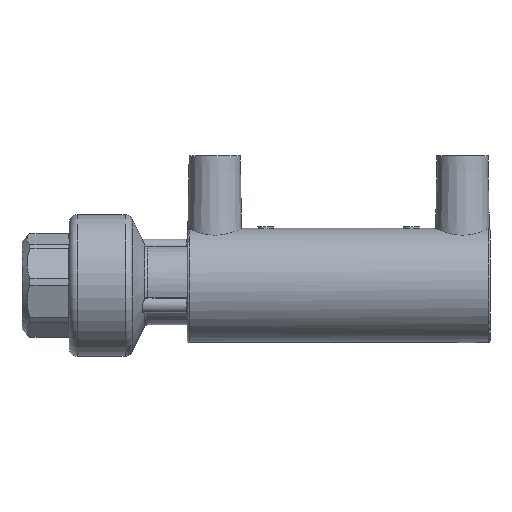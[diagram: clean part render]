
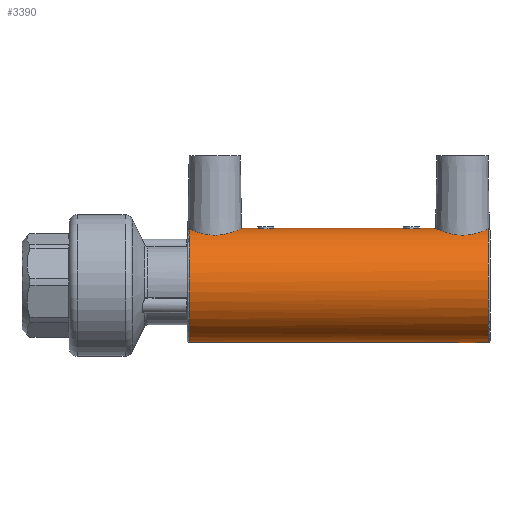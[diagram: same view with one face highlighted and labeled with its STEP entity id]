
A CAD part, front view. The second image highlights one B-rep face of the part: STEP entity #3390.
In plain terms, the highlighted cylindrical face has radius 14.5 mm (diameter 29 mm), a full revolution.
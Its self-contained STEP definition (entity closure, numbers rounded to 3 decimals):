
#606=CIRCLE('',#4387,14.5);
#607=CIRCLE('',#4388,14.5);
#860=ORIENTED_EDGE('',*,*,#1848,.F.);
#861=ORIENTED_EDGE('',*,*,#1849,.F.);
#862=ORIENTED_EDGE('',*,*,#1850,.T.);
#863=ORIENTED_EDGE('',*,*,#1851,.T.);
#864=ORIENTED_EDGE('',*,*,#1852,.T.);
#865=ORIENTED_EDGE('',*,*,#1853,.T.);
#1848=EDGE_CURVE('',#2342,#2342,#2674,.T.);
#1849=EDGE_CURVE('',#2343,#2343,#2675,.T.);
#1850=EDGE_CURVE('',#2344,#2345,#606,.F.);
#1851=EDGE_CURVE('',#2345,#2344,#2676,.T.);
#1852=EDGE_CURVE('',#2346,#2347,#607,.F.);
#1853=EDGE_CURVE('',#2347,#2346,#2677,.T.);
#2342=VERTEX_POINT('',#6028);
#2343=VERTEX_POINT('',#6040);
#2344=VERTEX_POINT('',#6042);
#2345=VERTEX_POINT('',#6043);
#2346=VERTEX_POINT('',#6064);
#2347=VERTEX_POINT('',#6065);
#2674=B_SPLINE_CURVE_WITH_KNOTS('',3,(#6017,#6018,#6019,#6020,#6021,#6022,
#6023,#6024,#6025,#6026,#6027),.UNSPECIFIED.,.T.,.F.,(1,1,1,1,1,1,1,1,1,
1,1,1,1,1,1),(-0.005,-0.003,-0.002,
0.,0.002,0.003,0.005,
0.006,0.008,0.009,0.011,
0.013,0.014,0.016,0.017),
 .UNSPECIFIED.);
#2675=B_SPLINE_CURVE_WITH_KNOTS('',3,(#6029,#6030,#6031,#6032,#6033,#6034,
#6035,#6036,#6037,#6038,#6039),.UNSPECIFIED.,.T.,.F.,(1,1,1,1,1,1,1,1,1,
1,1,1,1,1,1),(-0.005,-0.003,-0.002,
0.,0.002,0.003,0.005,
0.006,0.008,0.009,0.011,
0.013,0.014,0.016,0.017),
 .UNSPECIFIED.);
#2676=B_SPLINE_CURVE_WITH_KNOTS('',3,(#6044,#6045,#6046,#6047,#6048,#6049,
#6050,#6051,#6052,#6053,#6054,#6055,#6056,#6057,#6058,#6059,#6060,#6061,
#6062),.UNSPECIFIED.,.F.,.F.,(4,1,1,1,1,1,1,1,1,1,1,1,1,1,1,1,4),(0.,
0.002,0.005,0.007,0.01,
0.012,0.015,0.017,0.02,
0.022,0.024,0.027,0.029,
0.032,0.034,0.037,0.039),
 .UNSPECIFIED.);
#2677=B_SPLINE_CURVE_WITH_KNOTS('',3,(#6066,#6067,#6068,#6069,#6070,#6071,
#6072,#6073,#6074,#6075,#6076,#6077,#6078,#6079,#6080,#6081,#6082,#6083,
#6084),.UNSPECIFIED.,.F.,.F.,(4,1,1,1,1,1,1,1,1,1,1,1,1,1,1,1,4),(0.,
0.002,0.005,0.007,0.01,
0.012,0.015,0.017,0.02,
0.022,0.024,0.027,0.029,
0.032,0.034,0.037,0.039),
 .UNSPECIFIED.);
#2718=EDGE_LOOP('',(#860));
#2719=EDGE_LOOP('',(#861));
#2720=EDGE_LOOP('',(#862,#863));
#2721=EDGE_LOOP('',(#864,#865));
#3024=FACE_BOUND('',#2718,.T.);
#3025=FACE_BOUND('',#2719,.T.);
#3026=FACE_BOUND('',#2720,.T.);
#3027=FACE_BOUND('',#2721,.T.);
#3330=CYLINDRICAL_SURFACE('',#4386,14.5);
#3390=ADVANCED_FACE('',(#3024,#3025,#3026,#3027),#3330,.T.);
#4386=AXIS2_PLACEMENT_3D('',#6016,#4865,#4866);
#4387=AXIS2_PLACEMENT_3D('',#6041,#4867,#4868);
#4388=AXIS2_PLACEMENT_3D('',#6063,#4869,#4870);
#4865=DIRECTION('',(-1.,0.,0.));
#4866=DIRECTION('',(0.,0.,1.));
#4867=DIRECTION('',(-1.,0.,0.));
#4868=DIRECTION('',(0.,0.,1.));
#4869=DIRECTION('',(1.,0.,0.));
#4870=DIRECTION('',(0.,0.,-1.));
#6016=CARTESIAN_POINT('',(-60.,0.,0.));
#6017=CARTESIAN_POINT('',(20.066,-1.569,14.431));
#6018=CARTESIAN_POINT('',(20.717,0.,14.535));
#6019=CARTESIAN_POINT('',(20.066,1.567,14.431));
#6020=CARTESIAN_POINT('',(18.502,2.216,14.327));
#6021=CARTESIAN_POINT('',(16.933,1.568,14.431));
#6022=CARTESIAN_POINT('',(16.284,0.,14.534));
#6023=CARTESIAN_POINT('',(16.931,-1.565,14.431));
#6024=CARTESIAN_POINT('',(18.498,-2.216,14.327));
#6025=CARTESIAN_POINT('',(20.066,-1.569,14.431));
#6026=CARTESIAN_POINT('',(20.717,0.,14.535));
#6027=CARTESIAN_POINT('',(20.066,1.567,14.431));
#6028=CARTESIAN_POINT('',(20.5,0.,14.5));
#6029=CARTESIAN_POINT('',(-16.934,-1.569,14.431));
#6030=CARTESIAN_POINT('',(-16.283,0.,14.535));
#6031=CARTESIAN_POINT('',(-16.934,1.567,14.431));
#6032=CARTESIAN_POINT('',(-18.498,2.216,14.327));
#6033=CARTESIAN_POINT('',(-20.067,1.568,14.431));
#6034=CARTESIAN_POINT('',(-20.716,0.,14.534));
#6035=CARTESIAN_POINT('',(-20.069,-1.565,14.431));
#6036=CARTESIAN_POINT('',(-18.502,-2.216,14.327));
#6037=CARTESIAN_POINT('',(-16.934,-1.569,14.431));
#6038=CARTESIAN_POINT('',(-16.283,0.,14.535));
#6039=CARTESIAN_POINT('',(-16.934,1.567,14.431));
#6040=CARTESIAN_POINT('',(-16.5,0.,14.5));
#6041=CARTESIAN_POINT('',(-38.,0.,0.));
#6042=CARTESIAN_POINT('',(-38.,-2.083,14.35));
#6043=CARTESIAN_POINT('',(-38.,2.083,14.35));
#6044=CARTESIAN_POINT('',(-38.,2.083,14.35));
#6045=CARTESIAN_POINT('',(-37.752,2.865,14.236));
#6046=CARTESIAN_POINT('',(-36.993,4.294,13.897));
#6047=CARTESIAN_POINT('',(-35.204,5.922,13.261));
#6048=CARTESIAN_POINT('',(-32.937,6.851,12.782));
#6049=CARTESIAN_POINT('',(-30.427,6.92,12.743));
#6050=CARTESIAN_POINT('',(-28.093,6.101,13.176));
#6051=CARTESIAN_POINT('',(-26.228,4.566,13.808));
#6052=CARTESIAN_POINT('',(-24.982,2.472,14.352));
#6053=CARTESIAN_POINT('',(-24.528,0.018,14.573));
#6054=CARTESIAN_POINT('',(-24.97,-2.444,14.357));
#6055=CARTESIAN_POINT('',(-26.213,-4.549,13.813));
#6056=CARTESIAN_POINT('',(-28.074,-6.089,13.181));
#6057=CARTESIAN_POINT('',(-30.393,-6.914,12.746));
#6058=CARTESIAN_POINT('',(-32.912,-6.859,12.778));
#6059=CARTESIAN_POINT('',(-35.197,-5.928,13.258));
#6060=CARTESIAN_POINT('',(-36.987,-4.303,13.895));
#6061=CARTESIAN_POINT('',(-37.751,-2.865,14.236));
#6062=CARTESIAN_POINT('',(-38.,-2.083,14.35));
#6063=CARTESIAN_POINT('',(38.,0.,0.));
#6064=CARTESIAN_POINT('',(38.,2.083,14.35));
#6065=CARTESIAN_POINT('',(38.,-2.083,14.35));
#6066=CARTESIAN_POINT('',(38.,-2.083,14.35));
#6067=CARTESIAN_POINT('',(37.752,-2.865,14.236));
#6068=CARTESIAN_POINT('',(36.993,-4.294,13.897));
#6069=CARTESIAN_POINT('',(35.204,-5.922,13.261));
#6070=CARTESIAN_POINT('',(32.937,-6.851,12.782));
#6071=CARTESIAN_POINT('',(30.427,-6.92,12.743));
#6072=CARTESIAN_POINT('',(28.093,-6.101,13.176));
#6073=CARTESIAN_POINT('',(26.228,-4.566,13.808));
#6074=CARTESIAN_POINT('',(24.982,-2.472,14.352));
#6075=CARTESIAN_POINT('',(24.528,-0.018,14.573));
#6076=CARTESIAN_POINT('',(24.97,2.444,14.357));
#6077=CARTESIAN_POINT('',(26.213,4.549,13.813));
#6078=CARTESIAN_POINT('',(28.074,6.089,13.181));
#6079=CARTESIAN_POINT('',(30.393,6.914,12.746));
#6080=CARTESIAN_POINT('',(32.912,6.859,12.778));
#6081=CARTESIAN_POINT('',(35.197,5.928,13.258));
#6082=CARTESIAN_POINT('',(36.987,4.303,13.895));
#6083=CARTESIAN_POINT('',(37.751,2.865,14.236));
#6084=CARTESIAN_POINT('',(38.,2.083,14.35));
